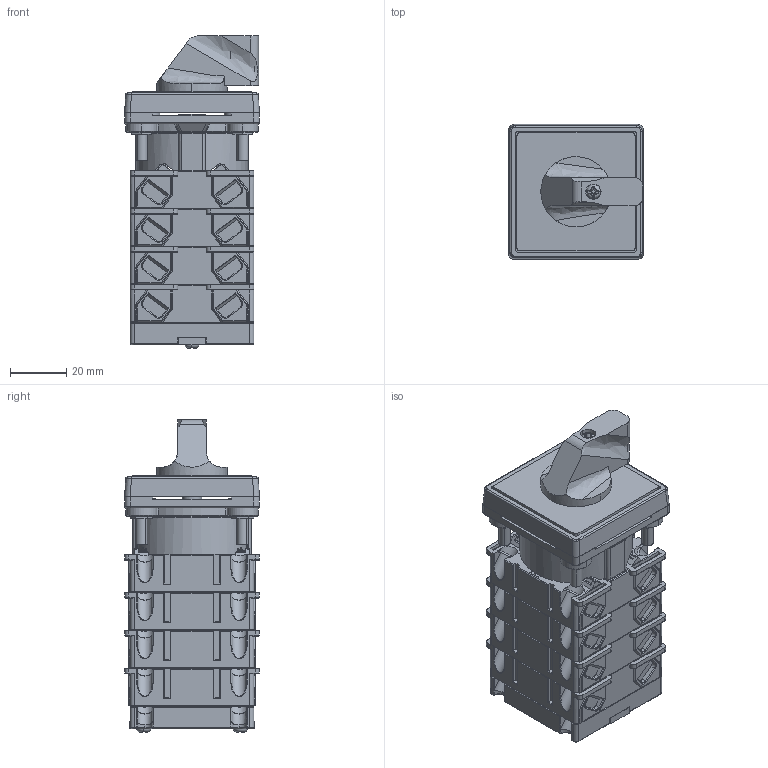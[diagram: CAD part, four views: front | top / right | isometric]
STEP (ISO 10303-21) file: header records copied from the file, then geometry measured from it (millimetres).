
FILE_DESCRIPTION (( 'STEP AP214' ), '1' );
FILE_NAME ('Ïåðåêëþ÷àòåëü 4G10-XXXX-U-R012,R014,S24 4ê.STEP', '2022-11-24T07:58:11', ( '' ), ( '' ), 'SwSTEP 2.0', 'SolidWorks 2018', '' );
FILE_SCHEMA (( 'AUTOMOTIVE_DESIGN' ));
Length unit declared in the file: millimetre
Products named in the file (1): Ïåðåêëþ÷àòåëü 4G10-XXXX-U-R012,R014,S24 4ê
Bounding box: 48 x 48 x 111.1 mm (x, y, z)
Volume: 152697.8 mm3; surface area: 73255.1 mm2
Topology: 30 solids, 62 shells, 4652 faces, 11985 edges, 7572 vertices
Faces by surface type: plane 2553, cylinder 1533, torus 242, cone 179, bspline 93, sphere 52
Entity records: 219710 total; most frequent: CARTESIAN_POINT 56833, ORIENTED_EDGE 23852, DIRECTION 22659, EDGE_CURVE 11926, LINE 7745, VECTOR 7745, VERTEX_POINT 7560, AXIS2_PLACEMENT_3D 7457
